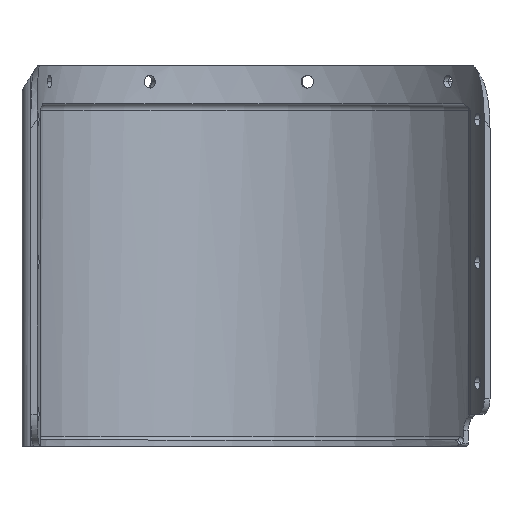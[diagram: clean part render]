
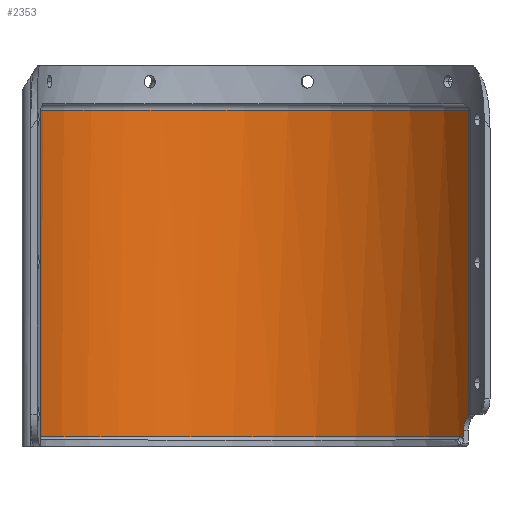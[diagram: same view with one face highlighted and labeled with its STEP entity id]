
A CAD part, top view. The second image highlights one B-rep face of the part: STEP entity #2353.
In plain terms, the highlighted cylindrical face has radius 79 mm (diameter 158 mm), a partial arc.
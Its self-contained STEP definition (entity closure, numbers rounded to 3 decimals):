
#966=AXIS2_PLACEMENT_3D('Circle Axis2P3D',#964,#965,$) ;
#2204=AXIS2_PLACEMENT_3D('Circle Axis2P3D',#2202,#2203,$) ;
#2337=AXIS2_PLACEMENT_3D('Cylinder Axis2P3D',#2334,#2335,#2336) ;
#783=CARTESIAN_POINT('Vertex',(-76.657,-14.,-19.096)) ;
#806=CARTESIAN_POINT('Vertex',(63.514,-14.,-46.978)) ;
#809=CARTESIAN_POINT('Line Origine',(63.514,-66.,-46.978)) ;
#813=CARTESIAN_POINT('Vertex',(63.514,-110.003,-46.978)) ;
#937=CARTESIAN_POINT('Control Point',(60.518,-115.,-50.78)) ;
#938=CARTESIAN_POINT('Control Point',(60.518,-113.461,-50.78)) ;
#939=CARTESIAN_POINT('Control Point',(60.897,-111.921,-50.328)) ;
#940=CARTESIAN_POINT('Control Point',(61.665,-110.69,-49.416)) ;
#941=CARTESIAN_POINT('Control Point',(62.599,-110.052,-48.215)) ;
#942=CARTESIAN_POINT('Control Point',(63.514,-110.003,-46.978)) ;
#943=CARTESIAN_POINT('Vertex',(60.518,-115.,-50.78)) ;
#964=CARTESIAN_POINT('Axis2P3D Location',(0.,-14.,0.)) ;
#1259=CARTESIAN_POINT('Line Origine',(60.518,-116.382,-50.78)) ;
#1263=CARTESIAN_POINT('Vertex',(60.518,-117.764,-50.78)) ;
#1402=CARTESIAN_POINT('Control Point',(59.196,-117.,-52.315)) ;
#1403=CARTESIAN_POINT('Control Point',(59.285,-117.,-52.215)) ;
#1404=CARTESIAN_POINT('Control Point',(59.373,-117.007,-52.114)) ;
#1405=CARTESIAN_POINT('Control Point',(59.462,-117.022,-52.013)) ;
#1406=CARTESIAN_POINT('Control Point',(59.725,-117.088,-51.711)) ;
#1407=CARTESIAN_POINT('Control Point',(59.977,-117.22,-51.419)) ;
#1408=CARTESIAN_POINT('Control Point',(60.137,-117.336,-51.231)) ;
#1409=CARTESIAN_POINT('Control Point',(60.308,-117.498,-51.03)) ;
#1410=CARTESIAN_POINT('Control Point',(60.462,-117.691,-50.846)) ;
#1411=CARTESIAN_POINT('Control Point',(60.481,-117.715,-50.824)) ;
#1412=CARTESIAN_POINT('Control Point',(60.499,-117.739,-50.802)) ;
#1413=CARTESIAN_POINT('Control Point',(60.518,-117.764,-50.78)) ;
#1414=CARTESIAN_POINT('Vertex',(59.196,-117.,-52.315)) ;
#2199=CARTESIAN_POINT('Vertex',(-76.657,-117.,-19.096)) ;
#2202=CARTESIAN_POINT('Axis2P3D Location',(0.,-117.,0.)) ;
#2334=CARTESIAN_POINT('Axis2P3D Location',(0.,-65.,0.)) ;
#2339=CARTESIAN_POINT('Line Origine',(-76.657,-65.,-19.096)) ;
#810=DIRECTION('Vector Direction',(0.,-1.,0.)) ;
#965=DIRECTION('Axis2P3D Direction',(-0.,1.,0.)) ;
#1260=DIRECTION('Vector Direction',(0.,1.,0.)) ;
#2203=DIRECTION('Axis2P3D Direction',(0.,1.,0.)) ;
#2335=DIRECTION('Axis2P3D Direction',(0.,1.,-0.)) ;
#2336=DIRECTION('Axis2P3D XDirection',(0.819,-0.,-0.574)) ;
#2340=DIRECTION('Vector Direction',(0.,1.,0.)) ;
#811=VECTOR('Line Direction',#810,1.) ;
#1261=VECTOR('Line Direction',#1260,1.) ;
#2341=VECTOR('Line Direction',#2340,1.) ;
#2345=ORIENTED_EDGE('',*,*,#1265,.F.) ;
#2346=ORIENTED_EDGE('',*,*,#945,.F.) ;
#2347=ORIENTED_EDGE('',*,*,#815,.F.) ;
#2348=ORIENTED_EDGE('',*,*,#968,.F.) ;
#2349=ORIENTED_EDGE('',*,*,#2343,.T.) ;
#2350=ORIENTED_EDGE('',*,*,#2206,.T.) ;
#2351=ORIENTED_EDGE('',*,*,#1416,.T.) ;
#2353=ADVANCED_FACE('Corps principal',(#2352),#2338,.F.) ;
#936=B_SPLINE_CURVE_WITH_KNOTS('',5,(#937,#938,#939,#940,#941,#942),.UNSPECIFIED.,.F.,.U.,(6,6),(0.,10.883),.UNSPECIFIED.) ;
#1401=B_SPLINE_CURVE_WITH_KNOTS('',5,(#1402,#1403,#1404,#1405,#1406,#1407,#1408,#1409,#1410,#1411,#1412,#1413),.UNSPECIFIED.,.F.,.U.,(6,3,3,6),(8.53,9.335,10.956,11.182),.UNSPECIFIED.) ;
#967=CIRCLE('generated circle',#966,79.) ;
#2205=CIRCLE('generated circle',#2204,79.) ;
#2338=CYLINDRICAL_SURFACE('generated cylinder',#2337,79.) ;
#815=EDGE_CURVE('',#807,#814,#812,.T.) ;
#945=EDGE_CURVE('',#814,#944,#936,.F.) ;
#968=EDGE_CURVE('',#784,#807,#967,.F.) ;
#1265=EDGE_CURVE('',#944,#1264,#1262,.F.) ;
#1416=EDGE_CURVE('',#1415,#1264,#1401,.T.) ;
#2206=EDGE_CURVE('',#2200,#1415,#2205,.F.) ;
#2343=EDGE_CURVE('',#784,#2200,#2342,.F.) ;
#2344=EDGE_LOOP('',(#2345,#2346,#2347,#2348,#2349,#2350,#2351)) ;
#2352=FACE_OUTER_BOUND('',#2344,.T.) ;
#812=LINE('Line',#809,#811) ;
#1262=LINE('Line',#1259,#1261) ;
#2342=LINE('Line',#2339,#2341) ;
#784=VERTEX_POINT('',#783) ;
#807=VERTEX_POINT('',#806) ;
#814=VERTEX_POINT('',#813) ;
#944=VERTEX_POINT('',#943) ;
#1264=VERTEX_POINT('',#1263) ;
#1415=VERTEX_POINT('',#1414) ;
#2200=VERTEX_POINT('',#2199) ;
